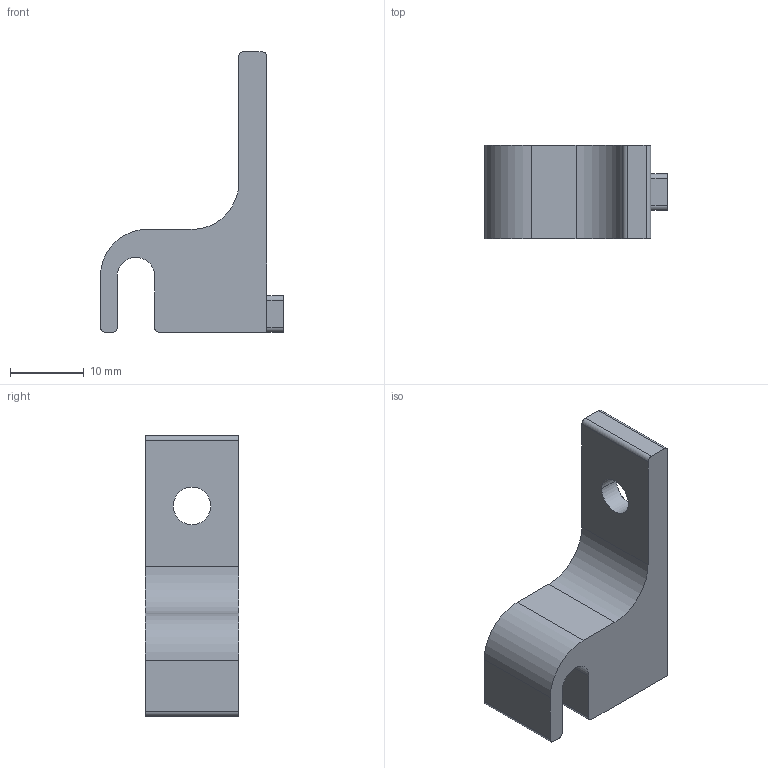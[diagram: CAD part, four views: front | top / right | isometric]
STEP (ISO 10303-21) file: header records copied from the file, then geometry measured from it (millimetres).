
FILE_DESCRIPTION((''),'2;1');
FILE_NAME('2450-364','2014-12-18T',('mboehnle'),('Keithley Instruments, Inc'),'PRO/ENGINEER BY PARAMETRIC TECHNOLOGY CORPORATION, 2012480','PRO/ENGINEER BY PARAMETRIC TECHNOLOGY CORPORATION, 2012480','');
FILE_SCHEMA(('CONFIG_CONTROL_DESIGN'));
Length unit declared in the file: inch
Products named in the file (1): 2450-364
Bounding box: 24.89 x 12.7 x 38.1 mm (x, y, z)
Volume: 4500.3 mm3; surface area: 2474.7 mm2
Topology: 1 solids, 1 shells, 32 faces, 87 edges, 58 vertices
Faces by surface type: plane 16, cylinder 16
Entity records: 1067 total; most frequent: DIRECTION 183, CARTESIAN_POINT 177, ORIENTED_EDGE 174, EDGE_CURVE 87, AXIS2_PLACEMENT_3D 64, VERTEX_POINT 58, VECTOR 55, LINE 55
